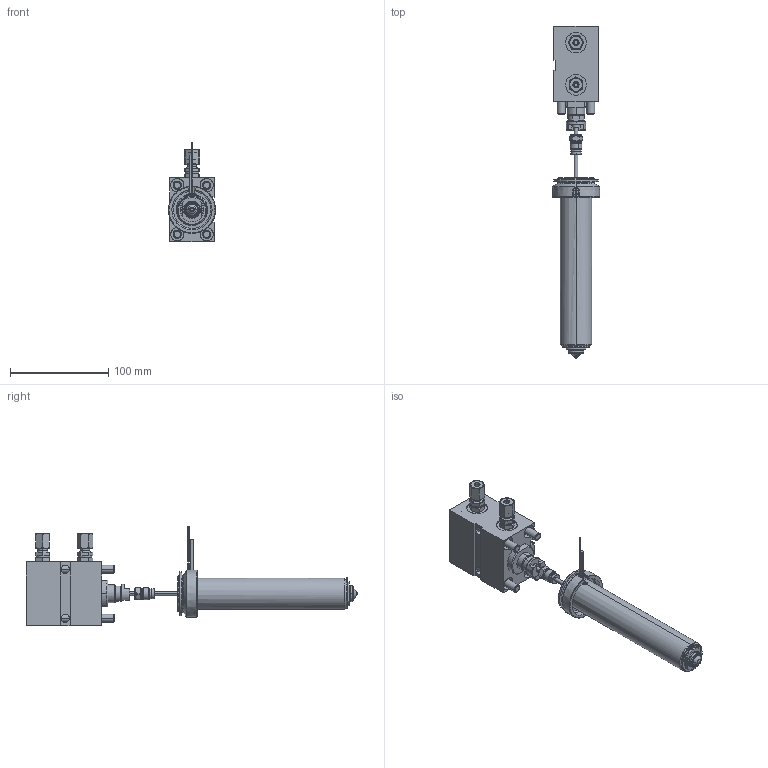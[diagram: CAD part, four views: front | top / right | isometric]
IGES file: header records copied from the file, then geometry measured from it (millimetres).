
Start section: Write IGES format                                    datakit 2008 (c)
Global section: file name: Unknown; native system: DATAKIT Converter; preprocessor: Unknown; author: Unknown; organization: Unknown; date: 950613.180003; units: millimetre
Bounding box: 47.98 x 338.5 x 101.12 mm (x, y, z)
Surface area: 150511.8 mm2 (no closed solid volume)
Topology: 0 solids, 0 shells, 744 faces, 3354 edges, 3340 vertices
Faces by surface type: revolution 468, bspline 276
